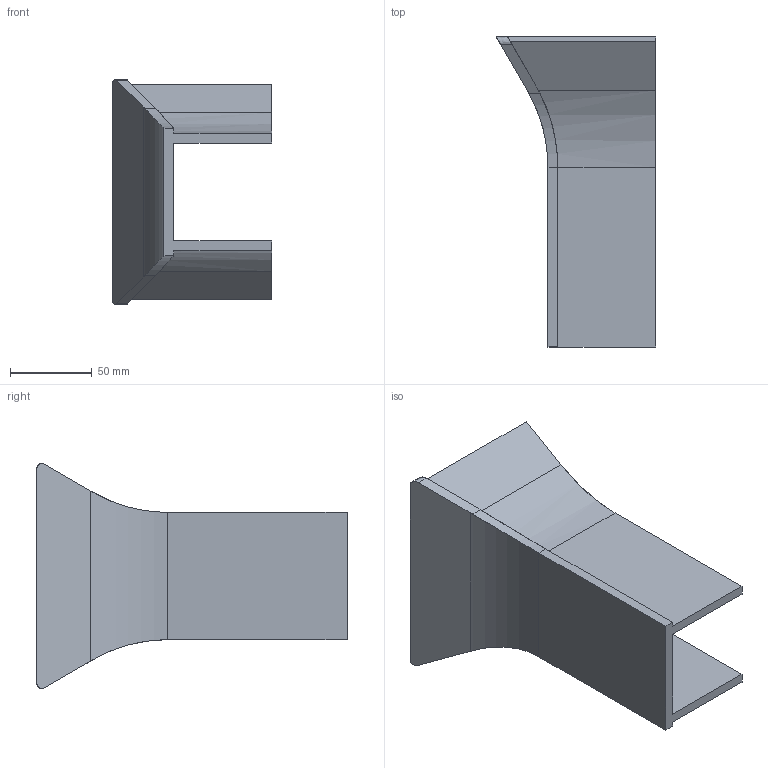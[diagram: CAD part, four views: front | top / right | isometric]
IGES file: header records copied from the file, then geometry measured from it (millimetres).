
Global section: file name: E:\UnigraphicsGraphicData\MISUMI_PRESS-PARTS\IGES\3d_cilg-110-60-60_00265_r00.igs; native system: NX V5.0; preprocessor: UGS NX IGES V5.0; author: MISUMI; date: 20110105.160245; units: millimetre
Bounding box: 97.65 x 190 x 137.89 mm (x, y, z)
Surface area: 91302.1 mm2 (no closed solid volume)
Topology: 0 solids, 0 shells, 38 faces, 214 edges, 214 vertices
Faces by surface type: bspline 38
